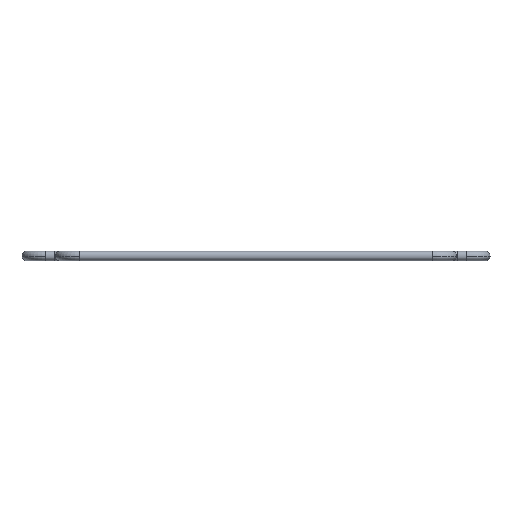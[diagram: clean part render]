
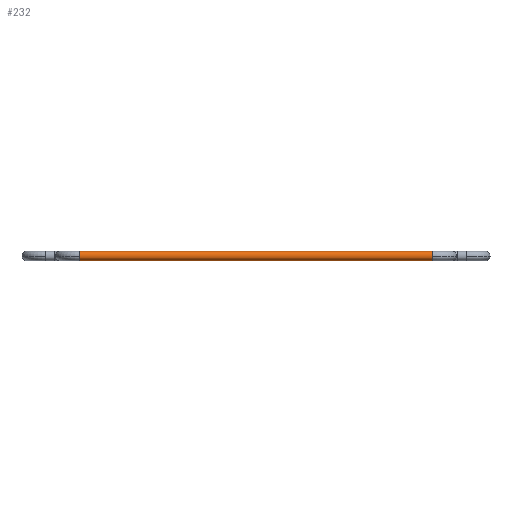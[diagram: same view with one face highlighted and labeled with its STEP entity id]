
A CAD part, front view. The second image highlights one B-rep face of the part: STEP entity #232.
In plain terms, the highlighted cylindrical face has radius 1.25 mm (diameter 2.5 mm), a partial arc.
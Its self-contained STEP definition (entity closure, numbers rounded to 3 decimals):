
#3 = AXIS2_PLACEMENT_3D ( 'NONE', #797, #110, #921 ) ;
#35 = VECTOR ( 'NONE', #1252, 1000. ) ;
#56 = ORIENTED_EDGE ( 'NONE', *, *, #148, .F. ) ;
#110 = DIRECTION ( 'NONE',  ( -1., 0., 0. ) ) ;
#112 = LINE ( 'NONE', #1372, #35 ) ;
#129 = DIRECTION ( 'NONE',  ( 0., 0., -1. ) ) ;
#148 = EDGE_CURVE ( 'NONE', #1267, #798, #453, .T. ) ;
#218 = CIRCLE ( 'NONE', #591, 1.25 ) ;
#232 = ADVANCED_FACE ( 'NONE', ( #711 ), #956, .T. ) ;
#233 = CIRCLE ( 'NONE', #1101, 1.25 ) ;
#247 = EDGE_CURVE ( 'NONE', #1203, #410, #112, .T. ) ;
#252 = DIRECTION ( 'NONE',  ( -1., 0., 0. ) ) ;
#258 = DIRECTION ( 'NONE',  ( -1., 0., 0. ) ) ;
#262 = ORIENTED_EDGE ( 'NONE', *, *, #1128, .T. ) ;
#282 = VERTEX_POINT ( 'NONE', #656 ) ;
#365 = ORIENTED_EDGE ( 'NONE', *, *, #855, .T. ) ;
#410 = VERTEX_POINT ( 'NONE', #570 ) ;
#422 = CARTESIAN_POINT ( 'NONE',  ( 46.475, -40.254, 0. ) ) ;
#432 = CARTESIAN_POINT ( 'NONE',  ( 46.475, -40.254, 1.25 ) ) ;
#442 = EDGE_CURVE ( 'NONE', #282, #1267, #1108, .T. ) ;
#453 = CIRCLE ( 'NONE', #954, 1.25 ) ;
#478 = CARTESIAN_POINT ( 'NONE',  ( 46.475, -40.254, 0. ) ) ;
#491 = VECTOR ( 'NONE', #1390, 1000. ) ;
#541 = DIRECTION ( 'NONE',  ( 0., 0., -1. ) ) ;
#559 = CARTESIAN_POINT ( 'NONE',  ( -46.475, -41.504, 0. ) ) ;
#568 = CARTESIAN_POINT ( 'NONE',  ( 46.475, -41.504, 0. ) ) ;
#570 = CARTESIAN_POINT ( 'NONE',  ( -46.475, -40.254, 1.25 ) ) ;
#590 = ORIENTED_EDGE ( 'NONE', *, *, #247, .T. ) ;
#591 = AXIS2_PLACEMENT_3D ( 'NONE', #671, #1502, #782 ) ;
#656 = CARTESIAN_POINT ( 'NONE',  ( 46.475, -40.254, -1.25 ) ) ;
#671 = CARTESIAN_POINT ( 'NONE',  ( -46.475, -40.254, 0. ) ) ;
#677 = CARTESIAN_POINT ( 'NONE',  ( -46.475, -40.254, -1.25 ) ) ;
#679 = CARTESIAN_POINT ( 'NONE',  ( 46.475, -40.254, -1.25 ) ) ;
#703 = DIRECTION ( 'NONE',  ( 0., 0., 1. ) ) ;
#711 = FACE_OUTER_BOUND ( 'NONE', #1352, .T. ) ;
#782 = DIRECTION ( 'NONE',  ( 0., 0., -1. ) ) ;
#797 = CARTESIAN_POINT ( 'NONE',  ( 46.475, -40.254, 0. ) ) ;
#798 = VERTEX_POINT ( 'NONE', #559 ) ;
#855 = EDGE_CURVE ( 'NONE', #282, #1245, #1462, .T. ) ;
#921 = DIRECTION ( 'NONE',  ( 0., 0., -1. ) ) ;
#954 = AXIS2_PLACEMENT_3D ( 'NONE', #1423, #252, #129 ) ;
#956 = CYLINDRICAL_SURFACE ( 'NONE', #1316, 1.25 ) ;
#1101 = AXIS2_PLACEMENT_3D ( 'NONE', #422, #1243, #541 ) ;
#1105 = ORIENTED_EDGE ( 'NONE', *, *, #1518, .F. ) ;
#1108 = LINE ( 'NONE', #679, #491 ) ;
#1128 = EDGE_CURVE ( 'NONE', #1245, #1203, #233, .T. ) ;
#1203 = VERTEX_POINT ( 'NONE', #432 ) ;
#1243 = DIRECTION ( 'NONE',  ( -1., 0., 0. ) ) ;
#1245 = VERTEX_POINT ( 'NONE', #568 ) ;
#1252 = DIRECTION ( 'NONE',  ( -1., 0., 0. ) ) ;
#1267 = VERTEX_POINT ( 'NONE', #677 ) ;
#1316 = AXIS2_PLACEMENT_3D ( 'NONE', #478, #258, #703 ) ;
#1321 = ORIENTED_EDGE ( 'NONE', *, *, #442, .F. ) ;
#1352 = EDGE_LOOP ( 'NONE', ( #1321, #365, #262, #590, #1105, #56 ) ) ;
#1372 = CARTESIAN_POINT ( 'NONE',  ( 46.475, -40.254, 1.25 ) ) ;
#1390 = DIRECTION ( 'NONE',  ( -1., 0., 0. ) ) ;
#1423 = CARTESIAN_POINT ( 'NONE',  ( -46.475, -40.254, 0. ) ) ;
#1462 = CIRCLE ( 'NONE', #3, 1.25 ) ;
#1502 = DIRECTION ( 'NONE',  ( -1., 0., 0. ) ) ;
#1518 = EDGE_CURVE ( 'NONE', #798, #410, #218, .T. ) ;
